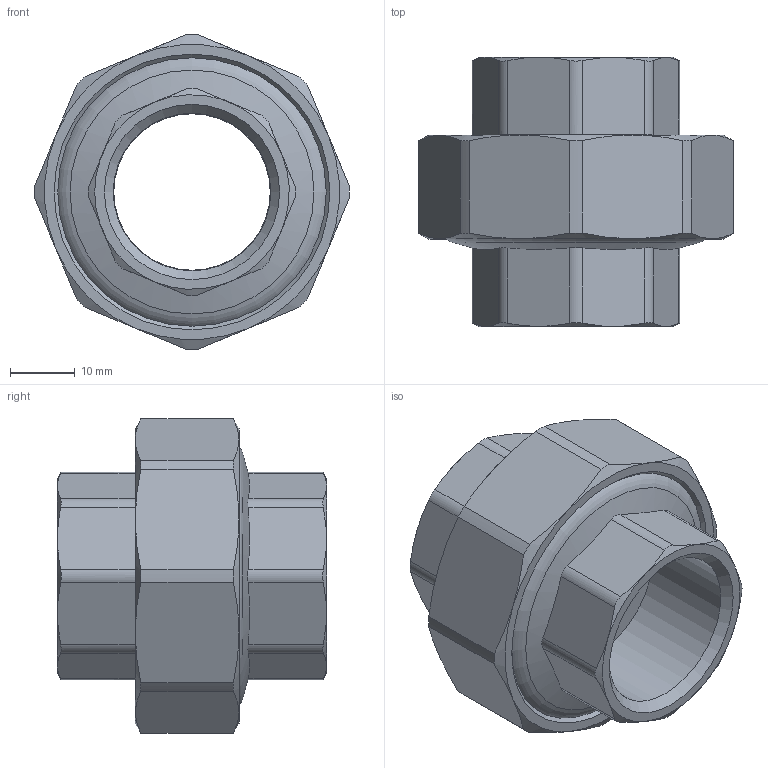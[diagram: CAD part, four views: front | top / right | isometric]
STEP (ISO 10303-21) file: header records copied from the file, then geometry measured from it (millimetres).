
FILE_DESCRIPTION(('STEP AP203'), '1');
FILE_NAME('覆.302612.008.000 捘 - VTr.340.N.0005', '2024-06-28T06:31:15', ('Boss'), (''), 'C3D Converter', 'C3D Toolkit', '');
FILE_SCHEMA(('CONFIG_CONTROL_DESIGN'));
Length unit declared in the file: millimetre
Products named in the file (1): ВР.302612.008.000 СБ
Bounding box: 48.5 x 41.51 x 48.5 mm (x, y, z)
Volume: 25919 mm3; surface area: 13601.7 mm2
Topology: 1 solids, 4 shells, 217 faces, 573 edges, 375 vertices
Faces by surface type: plane 83, extrusion 71, cylinder 30, cone 27, torus 6
Full cylindrical faces by diameter (mm): 24.118 x1, 24.3 x1, 32.5 x1, 34 x1, 36.5 x1, 39.2 x1
Entity records: 8776 total; most frequent: CARTESIAN_POINT 3854, ORIENTED_EDGE 1096, DIRECTION 764, EDGE_CURVE 548, VERTEX_POINT 373, VECTOR 318, B_SPLINE_CURVE_WITH_KNOTS 294, EDGE_LOOP 255
